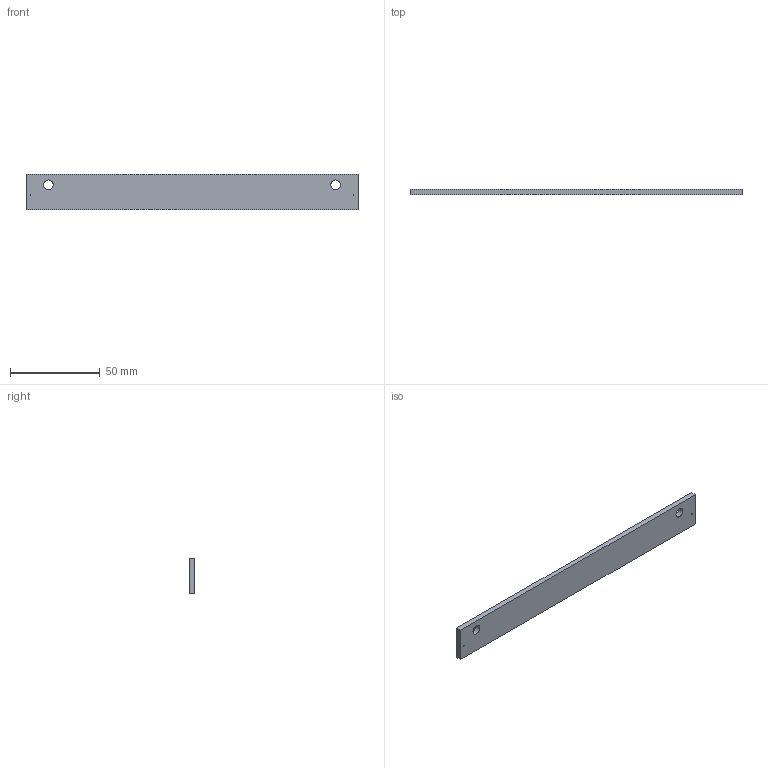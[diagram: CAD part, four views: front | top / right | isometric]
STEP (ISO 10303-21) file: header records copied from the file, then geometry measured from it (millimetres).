
FILE_DESCRIPTION (( 'STEP AP203' ), '1' );
FILE_NAME ('ORW-71.24.10.003 砑鳧罻.STEP', '2025-01-13T09:23:26', ( '燴僽樥' ), ( '' ), 'SwSTEP 2.0', 'SolidWorks 2023', '' );
FILE_SCHEMA (( 'CONFIG_CONTROL_DESIGN' ));
Length unit declared in the file: millimetre
Products named in the file (1): ORW-71.24.10.003 Планка
Bounding box: 185 x 3 x 20 mm (x, y, z)
Volume: 10961.4 mm3; surface area: 8648.8 mm2
Topology: 1 solids, 1 shells, 10 faces, 24 edges, 16 vertices
Faces by surface type: plane 6, cylinder 4
Full cylindrical faces by diameter (mm): 0.5 x2, 5.4 x2
Entity records: 369 total; most frequent: DIRECTION 50, CARTESIAN_POINT 47, ORIENTED_EDGE 40, EDGE_LOOP 22, EDGE_CURVE 20, AXIS2_PLACEMENT_3D 19, VERTEX_POINT 16, FACE_OUTER_BOUND 14
